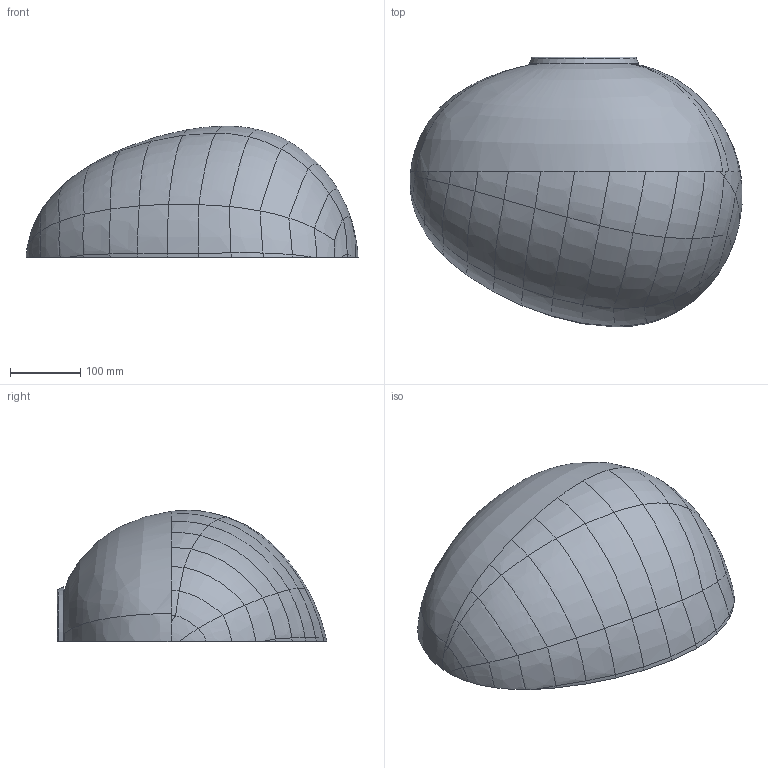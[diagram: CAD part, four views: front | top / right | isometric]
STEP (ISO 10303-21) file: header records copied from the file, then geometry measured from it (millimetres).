
FILE_DESCRIPTION (( 'STEP AP203' ), '1' );
FILE_NAME ('168_GRANDE-SEMI-1_W_ME_3D.STEP', '2025-04-15T14:01:25', ( '' ), ( '' ), 'SwSTEP 2.0', 'SolidWorks 2024', '' );
FILE_SCHEMA (( 'CONFIG_CONTROL_DESIGN' ));
Length unit declared in the file: millimetre
Products named in the file (1): 168_GRANDE-SEMI-1_W_ME_3D
Bounding box: 473.33 x 384.5 x 187.35 mm (x, y, z)
Volume: 1030712.6 mm3; surface area: 526334.1 mm2
Topology: 2 solids, 2 shells, 373 faces, 940 edges, 551 vertices
Faces by surface type: bspline 151, cylinder 77, plane 57, torus 43, cone 23, sphere 22
Entity records: 170370 total; most frequent: CARTESIAN_POINT 162817, ORIENTED_EDGE 1836, DIRECTION 1148, EDGE_CURVE 918, VERTEX_POINT 551, AXIS2_PLACEMENT_3D 468, B_SPLINE_CURVE_WITH_KNOTS 411, EDGE_LOOP 375
